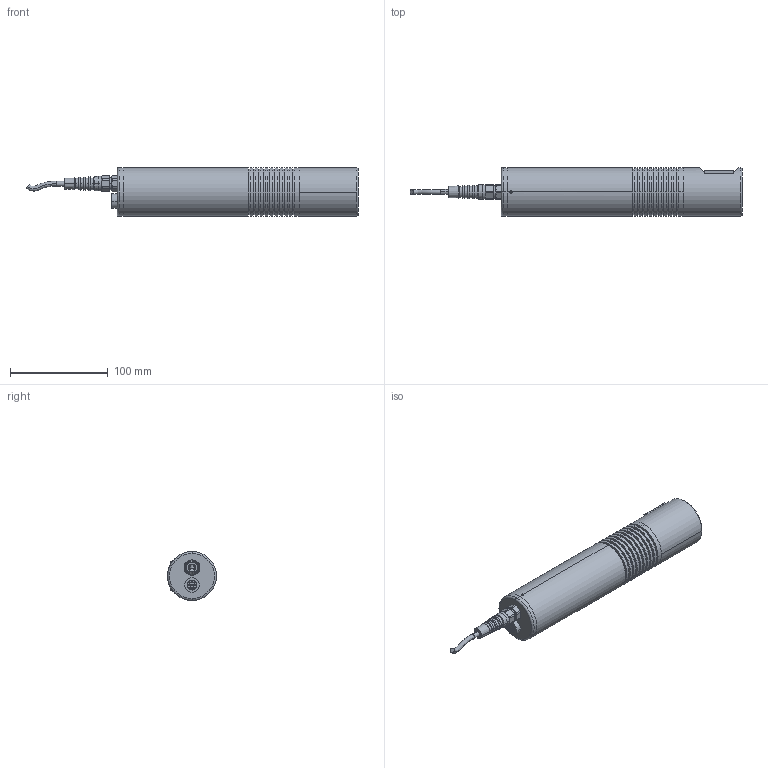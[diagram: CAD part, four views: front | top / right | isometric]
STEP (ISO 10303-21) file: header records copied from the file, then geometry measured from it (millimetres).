
FILE_DESCRIPTION (( 'STEP AP203' ), '1' );
FILE_NAME ('SENSORE LASER LT2V50 220V 90°.STEP', '2021-06-16T15:51:57', ( '' ), ( '' ), 'SwSTEP 2.0', 'SolidWorks 2019', '' );
FILE_SCHEMA (( 'CONFIG_CONTROL_DESIGN' ));
Length unit declared in the file: millimetre
Products named in the file (8): 28516-00 - Portafusibile IP67 da pannello_Default<A macchina>; 26613-41 - Involucro Ø50 SCH-LT2V50 - Anodizzato verde brillante_Default<A macchina>; 26598-10 - Piastrina porta ottica 90° - Anodizzato nero lucido_Default<A macchina>; SENSORE LASER LT2V50 220V 90°; 27100-00 - Vetrino di protezione Ø10_Default<A macchina>; 26548-10 - Testa ottica 90° Ø50 - Anodizzato nero lucido_Default<A macchina>; 28501-00 - Pressacavo spiralato PG7 Nero - PER ASSIEME_Default<A macchina>; 26626-40 - Coperchio posteriore Ø50 SCH-LT2V50 - Anodizzato verde brillante_Default<A macchina>
Assembly tree (7 placements, depth 2):
  SENSORE LASER LT2V50 220V 90°
    26613-41 - Involucro Ø50 SCH-LT2V50 - Anodizzato verde brillante_Default<A macchina>
    26548-10 - Testa ottica 90° Ø50 - Anodizzato nero lucido_Default<A macchina>
    26626-40 - Coperchio posteriore Ø50 SCH-LT2V50 - Anodizzato verde brillante_Default<A macchina>
    28516-00 - Portafusibile IP67 da pannello_Default<A macchina>
    28501-00 - Pressacavo spiralato PG7 Nero - PER ASSIEME_Default<A macchina>
    26598-10 - Piastrina porta ottica 90° - Anodizzato nero lucido_Default<A macchina>
    27100-00 - Vetrino di protezione Ø10_Default<A macchina>
Bounding box: 339.15 x 50 x 50 mm (x, y, z)
Volume: 201930.9 mm3; surface area: 96631 mm2
Topology: 8 solids, 8 shells, 735 faces, 1915 edges, 1236 vertices
Faces by surface type: plane 443, cylinder 198, cone 88, bspline 4, torus 2
Entity records: 25121 total; most frequent: CARTESIAN_POINT 5928, ORIENTED_EDGE 3814, DIRECTION 3795, EDGE_CURVE 1907, LINE 1333, VECTOR 1333, VERTEX_POINT 1236, AXIS2_PLACEMENT_3D 1231
